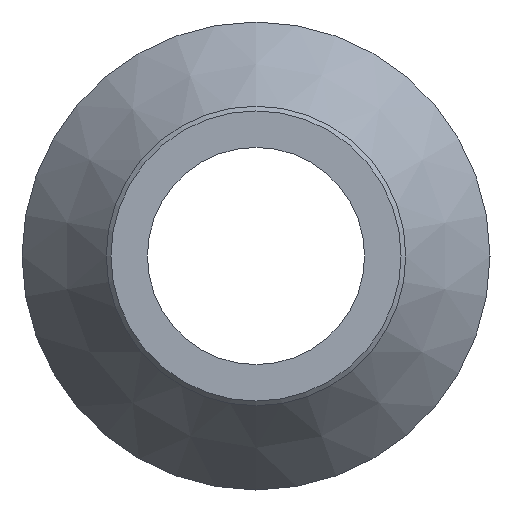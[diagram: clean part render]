
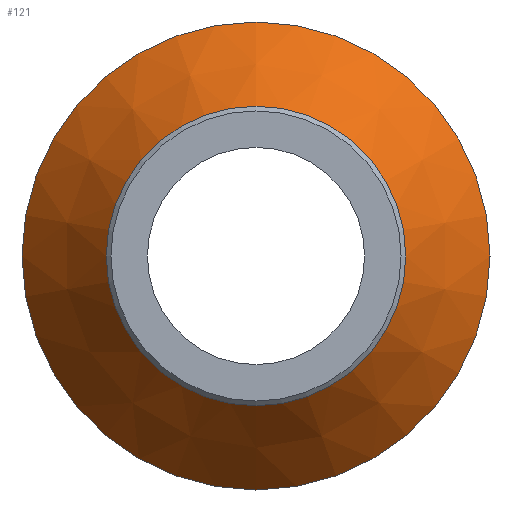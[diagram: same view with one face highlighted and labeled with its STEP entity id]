
A CAD part, left-side view. The second image highlights one B-rep face of the part: STEP entity #121.
In plain terms, the highlighted conical face has half-angle 36.87 degrees and reference radius 25 mm.
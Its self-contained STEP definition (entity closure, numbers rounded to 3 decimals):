
#22=CONICAL_SURFACE('',#146,25.,0.644);
#28=ORIENTED_EDGE('',*,*,#48,.F.);
#29=ORIENTED_EDGE('',*,*,#47,.T.);
#47=EDGE_CURVE('',#57,#57,#67,.T.);
#48=EDGE_CURVE('',#58,#58,#68,.T.);
#57=VERTEX_POINT('',#210);
#58=VERTEX_POINT('',#213);
#67=CIRCLE('',#145,25.);
#68=CIRCLE('',#147,16.);
#78=EDGE_LOOP('',(#28));
#79=EDGE_LOOP('',(#29));
#98=FACE_BOUND('',#78,.T.);
#99=FACE_BOUND('',#79,.T.);
#121=ADVANCED_FACE('',(#98,#99),#22,.T.);
#145=AXIS2_PLACEMENT_3D('',#209,#169,#170);
#146=AXIS2_PLACEMENT_3D('',#211,#171,#172);
#147=AXIS2_PLACEMENT_3D('',#212,#173,#174);
#169=DIRECTION('',(-1.,0.,0.));
#170=DIRECTION('',(0.,0.,1.));
#171=DIRECTION('',(1.,0.,0.));
#172=DIRECTION('',(0.,0.,-1.));
#173=DIRECTION('',(-1.,0.,0.));
#174=DIRECTION('',(0.,0.,1.));
#209=CARTESIAN_POINT('',(6.,0.,0.));
#210=CARTESIAN_POINT('',(6.,0.,25.));
#211=CARTESIAN_POINT('',(6.,0.,0.));
#212=CARTESIAN_POINT('',(-6.,0.,0.));
#213=CARTESIAN_POINT('',(-6.,0.,16.));
